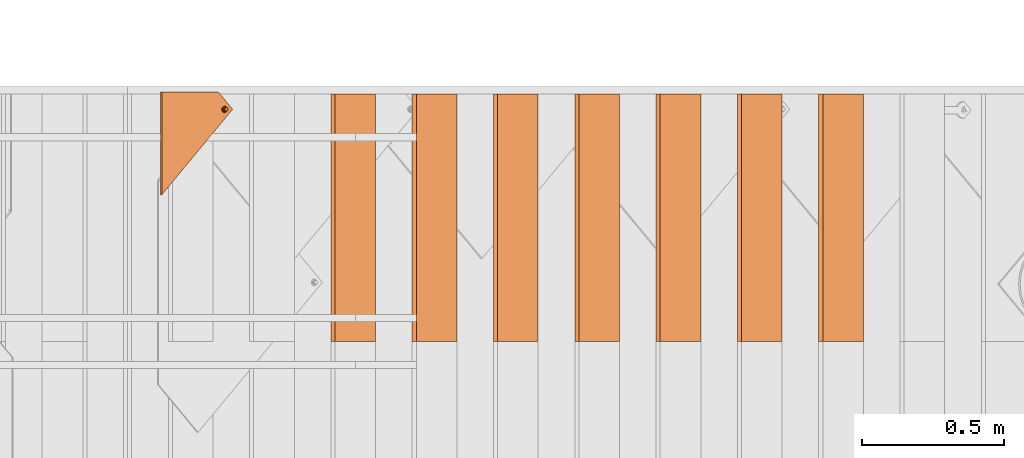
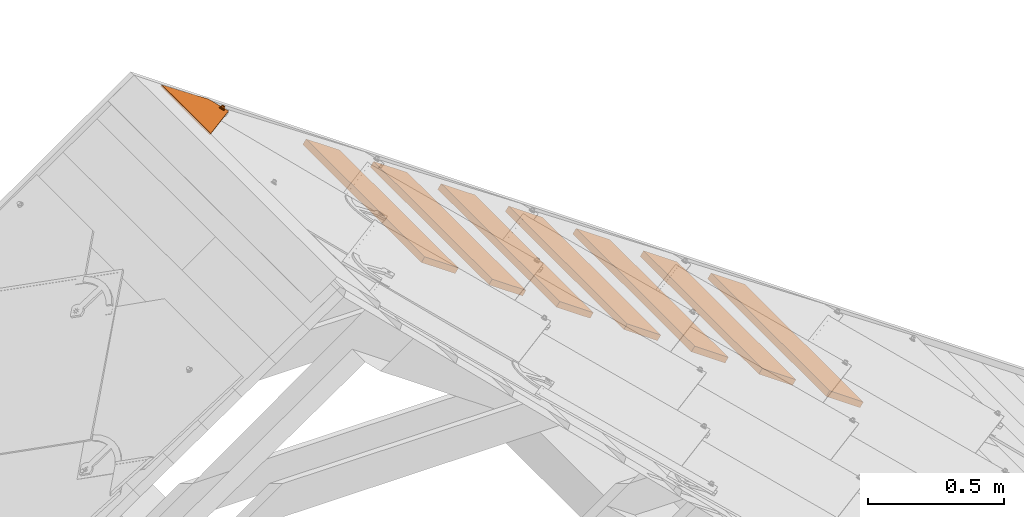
# One storey, part 123 of 151: 8 proxies, 1 element without a shape of its own.
"""IFC2X3 building model written with IfcOpenShell, lengths in millimetres."""

import ifcopenshell
import ifcopenshell.guid

model = None  # the IFC model being written
_history = None  # IfcOwnerHistory: only IFC2X3 demands one
_inside = {}  # id of a spatial element -> (the spatial element, [elements in it])
_under = {}  # id of a project, library or spatial element -> (it, [spatial elements below it])
_declared = {}  # id of a project -> (the project, [libraries it declares])
_typed = {}  # id of a type object -> (the type object, [elements of that type])
_made_of = {}  # id of a material, layer set ... -> (it, [elements and type objects made of it])


def new_model(schema):
    """Start an empty IFC model of exactly this schema.

    Asked for "IFC4X3", IfcOpenShell would pick the latest addendum, in which some entities
    have other attributes; the version numbers below select the first issue.
    IFC2X3 requires an IfcOwnerHistory on every rooted entity: one is made here for all.
    """
    global model, _history
    if schema == "IFC4X3":
        model = ifcopenshell.file(schema_version=(4, 3, 0, 0))
    else:
        model = ifcopenshell.file(schema=schema)
    _inside.clear()
    _under.clear()
    _declared.clear()
    _typed.clear()
    _made_of.clear()
    _history = None
    if model.schema == "IFC2X3":
        org = make("IfcOrganization", Name="unknown")
        user = make(
            "IfcPersonAndOrganization",
            ThePerson=make("IfcPerson", FamilyName="unknown"),
            TheOrganization=org,
        )
        app = make(
            "IfcApplication",
            ApplicationDeveloper=org,
            Version="unknown",
            ApplicationFullName="unknown",
            ApplicationIdentifier="unknown",
        )
        _history = make(
            "IfcOwnerHistory",
            OwningUser=user,
            OwningApplication=app,
            ChangeAction="ADDED",
            CreationDate=0,
        )
    return model


def make(cls, **values):
    """One entity of the class cls with the attributes given. An attribute that is None is left unset."""
    return model.create_entity(
        cls, **{name: value for name, value in values.items() if value is not None}
    )


def entity(cls, *values):
    """Any entity or typed value of the class cls, its attributes in the order of the schema. None: left unset."""
    e = model.create_entity(cls)
    for i, value in enumerate(values):
        if value is not None:
            e[i] = value
    return e


def rooted(cls, **values):
    """An entity with a GlobalId (a new one), such as an element, a storey or a relation."""
    return make(cls, GlobalId=ifcopenshell.guid.new(), OwnerHistory=_history, **values)


def si_unit(unit_type, name, prefix=None):
    """IfcSIUnit, for example si_unit("LENGTHUNIT", "METRE", prefix="MILLI")."""
    return make("IfcSIUnit", UnitType=unit_type, Prefix=prefix, Name=name)


def converted_unit(unit_type, name, factor, base, dimensions=None, offset=None):
    """IfcConversionBasedUnit, such as the inch: factor (a typed value) times the base unit."""
    return make(
        "IfcConversionBasedUnit"
        if offset is None
        else "IfcConversionBasedUnitWithOffset",
        ConversionOffset=offset,
        Dimensions=None
        if dimensions is None
        else entity("IfcDimensionalExponents", *dimensions),
        UnitType=unit_type,
        Name=name,
        ConversionFactor=make(
            "IfcMeasureWithUnit", ValueComponent=factor, UnitComponent=base
        ),
    )


def derived_unit(unit_type, elements):
    """IfcDerivedUnit: a product of units, each with its exponent."""
    return make(
        "IfcDerivedUnit",
        Elements=[
            make("IfcDerivedUnitElement", Unit=unit, Exponent=power)
            for unit, power in elements
        ],
        UnitType=unit_type,
    )


def assignment(units):
    """IfcUnitAssignment: the units of a project."""
    return None if units is None else make("IfcUnitAssignment", Units=units)


def point(xyz):
    """IfcCartesianPoint."""
    return None if xyz is None else make("IfcCartesianPoint", Coordinates=xyz)


def direction(xyz):
    """IfcDirection."""
    return None if xyz is None else make("IfcDirection", DirectionRatios=xyz)


def frame(location, z_axis=None, x_axis=None):
    """IfcAxis2Placement3D, a coordinate frame: its origin and axes. An axis left out is left unset."""
    return make(
        "IfcAxis2Placement3D",
        Location=point(location),
        Axis=direction(z_axis),
        RefDirection=direction(x_axis),
    )


def frame_2d(location, x_axis=None):
    """IfcAxis2Placement2D, a coordinate frame in the plane: its origin and x axis."""
    return make(
        "IfcAxis2Placement2D", Location=point(location), RefDirection=direction(x_axis)
    )


def origin():
    """The frame at (0, 0, 0) with its axes left unset."""
    return frame((0.0, 0.0, 0.0))


def place(relative_to, where):
    """IfcLocalPlacement: puts the frame where relative to a parent placement (None: the world)."""
    return make(
        "IfcLocalPlacement", PlacementRelTo=relative_to, RelativePlacement=where
    )


def context(
    kind, dimensions, precision=None, world=None, true_north=None, identifier=None
):
    """IfcGeometricRepresentationContext, for example the 3D "Model" context."""
    return make(
        "IfcGeometricRepresentationContext",
        ContextIdentifier=identifier,
        ContextType=kind,
        CoordinateSpaceDimension=dimensions,
        Precision=precision,
        WorldCoordinateSystem=world,
        TrueNorth=true_north,
    )


def subcontext(parent, identifier, kind, view, scale=None):
    """IfcGeometricRepresentationSubContext, for example "Body" below "Model"."""
    return make(
        "IfcGeometricRepresentationSubContext",
        ContextIdentifier=identifier,
        ContextType=kind,
        ParentContext=parent,
        TargetScale=scale,
        TargetView=view,
    )


def project(units=None, contexts=None):
    """IfcProject with its units and contexts."""
    return rooted(
        "IfcProject",
        Name="project",
        RepresentationContexts=contexts,
        UnitsInContext=assignment(units),
    )


def spatial(cls, under=None, at=None, **own):
    """A site, building, storey or space (cls), placed at a placement, below another one or the project."""
    s = rooted(cls, ObjectPlacement=at, **own)
    if under is not None:
        _under.setdefault(under.id(), (under, []))[1].append(s)
    return s


def profile(cls, at=None, kind="AREA", **sizes):
    """A parametric profile (cls). Its sizes go by their IFC names, for example OverallWidth=200.0."""
    return make(cls, ProfileType=kind, Position=at, **sizes)


def rectangle(**sizes):
    """IfcRectangleProfileDef."""
    return profile("IfcRectangleProfileDef", **sizes)


def extrude(swept, where, along, depth):
    """IfcExtrudedAreaSolid: the profile swept, set in the frame where, extruded along a direction by depth."""
    return make(
        "IfcExtrudedAreaSolid",
        SweptArea=swept,
        Position=where,
        ExtrudedDirection=direction(along),
        Depth=depth,
    )


def faces_of(points, faces, orient=None, outer=None):
    """IfcFace entities. A face is a list of loops; a loop is a list of indices into points, from 0.

    orient and outer hold one flag for each loop. By default every Orientation is true, the
    first loop of a face is its IfcFaceOuterBound and the others are IfcFaceBound.
    """
    made = []
    for i, loops in enumerate(faces):
        bounds = []
        for j, loop in enumerate(loops):
            is_outer = j == 0 if outer is None else outer[i][j]
            bounds.append(
                make(
                    "IfcFaceOuterBound" if is_outer else "IfcFaceBound",
                    Bound=make("IfcPolyLoop", Polygon=[points[k] for k in loop]),
                    Orientation=True if orient is None else orient[i][j],
                )
            )
        made.append(make("IfcFace", Bounds=bounds))
    return made


def faceted_brep(points, faces, orient=None, outer=None, voids=None):
    """IfcFacetedBrep: a solid bounded by flat faces; with voids (closed shells), ...WithVoids."""
    shared = [point(p) for p in points]
    hull = make("IfcClosedShell", CfsFaces=faces_of(shared, faces, orient, outer))
    if voids is None:
        return make("IfcFacetedBrep", Outer=hull)
    return make(
        "IfcFacetedBrepWithVoids",
        Outer=hull,
        Voids=[
            make(cls, CfsFaces=faces_of(shared, fs, o, b)) for cls, fs, o, b in voids
        ],
    )


def shape(context_of_items, identifier, shape_type, items):
    """IfcShapeRepresentation: the items that make up one representation, for example the "Body"."""
    return make(
        "IfcShapeRepresentation",
        ContextOfItems=context_of_items,
        RepresentationIdentifier=identifier,
        RepresentationType=shape_type,
        Items=items,
    )


def source(mapping_origin, context_of_items, identifier, shape_type, items):
    """IfcRepresentationMap: a shape defined once, which mapped items show again and again."""
    return make(
        "IfcRepresentationMap",
        MappingOrigin=mapping_origin,
        MappedRepresentation=shape(context_of_items, identifier, shape_type, items),
    )


def transform(
    local_origin,
    x_axis=None,
    y_axis=None,
    z_axis=None,
    scale=None,
    scale2=None,
    scale3=None,
    uniform=True,
):
    """IfcCartesianTransformationOperator3D, or its non-uniform kind. x_axis, y_axis, z_axis: its Axis1, 2, 3."""
    if uniform:
        return make(
            "IfcCartesianTransformationOperator3D",
            Axis1=direction(x_axis),
            Axis2=direction(y_axis),
            LocalOrigin=point(local_origin),
            Scale=scale,
            Axis3=direction(z_axis),
        )
    return make(
        "IfcCartesianTransformationOperator3DnonUniform",
        Axis1=direction(x_axis),
        Axis2=direction(y_axis),
        LocalOrigin=point(local_origin),
        Scale=scale,
        Axis3=direction(z_axis),
        Scale2=scale2,
        Scale3=scale3,
    )


def mapped(mapping_source, mapping_target):
    """IfcMappedItem: shows the shape of a source again, moved by a transform."""
    return make(
        "IfcMappedItem", MappingSource=mapping_source, MappingTarget=mapping_target
    )


def material(Name=None, Category=None):
    """IfcMaterial."""
    return make("IfcMaterial", Name=Name, Category=Category)


def material_list(materials):
    """IfcMaterialList."""
    return make("IfcMaterialList", Materials=materials)


def made_of(thing, what):
    """Note that an element or type object is made of a material, layer set ...; save() writes the relation."""
    if what is not None:
        _made_of.setdefault(what.id(), (what, []))[1].append(thing)
    return thing


def type_object(cls, material=None, **own):
    """A type object (cls), such as IfcWallType, which elements share."""
    return made_of(rooted(cls, **own), material)


def type_shapes(of_type, sources):
    """Give a type object the sources (RepresentationMaps) that its elements show as mapped items."""
    of_type.RepresentationMaps = sources


def element(
    cls,
    number,
    at=None,
    inside=None,
    cuts=None,
    type_object=None,
    material=None,
    context=None,
    identifier="Body",
    shape_type=None,
    held_by="IfcProductDefinitionShape",
    body=None,
    shapes=None,
    **own,
):
    """One element of the class cls, such as IfcWall. Its Tag is "e" and its number.

    at: its placement. inside: the storey or other place that contains it. cuts: it is an
    opening in that element (IfcRelVoidsElement). A single representation is given by context,
    identifier, shape_type and body (its items); several are given by shapes. held_by: the class
    of the entity that holds the representations. save() writes the other relations.
    """
    e = rooted(cls, Tag="e%d" % number, ObjectPlacement=at, **own)
    if body is not None:
        shapes = [shape(context, identifier, shape_type, body)]
    if shapes is not None:
        e.Representation = make(held_by, Representations=shapes)
    if inside is not None:
        _inside.setdefault(inside.id(), (inside, []))[1].append(e)
    if cuts is not None:
        rooted(
            "IfcRelVoidsElement", RelatingBuildingElement=cuts, RelatedOpeningElement=e
        )
    if type_object is not None:
        _typed.setdefault(type_object.id(), (type_object, []))[1].append(e)
    return made_of(e, material)


def aggregate(whole, parts):
    """IfcRelAggregates: a whole, such as a stair, and the parts it consists of."""
    return rooted("IfcRelAggregates", RelatingObject=whole, RelatedObjects=parts)


def save(model, path):
    """Write the relations noted so far, then the file.

    IfcRelAggregates (storeys below a building ...), IfcRelContainedInSpatialStructure (elements
    in a storey), IfcRelDefinesByType, IfcRelAssociatesMaterial and IfcRelDeclares: one each for
    every whole, place, type object, material and project.
    """
    for whole, parts in _under.values():
        aggregate(whole, parts)
    for where, things in _inside.values():
        rooted(
            "IfcRelContainedInSpatialStructure",
            RelatedElements=things,
            RelatingStructure=where,
        )
    for kind, things in _typed.values():
        rooted("IfcRelDefinesByType", RelatedObjects=things, RelatingType=kind)
    for what, things in _made_of.values():
        rooted("IfcRelAssociatesMaterial", RelatedObjects=things, RelatingMaterial=what)
    for by, libraries in _declared.values():
        rooted("IfcRelDeclares", RelatingContext=by, RelatedDefinitions=libraries)
    model.write(path)


model = new_model("IFC2X3")

# Units and contexts
model_context = context("Model", 3, precision=0.01, world=origin(), true_north=direction((6.12303176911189e-17, 1.0)))
body_context = subcontext(model_context, "Body", "Model", "MODEL_VIEW")
ifc_project = project(units=[si_unit("LENGTHUNIT", "METRE", prefix="MILLI"), si_unit("AREAUNIT", "SQUARE_METRE"), si_unit("VOLUMEUNIT", "CUBIC_METRE"), converted_unit("PLANEANGLEUNIT", "DEGREE", entity("IfcRatioMeasure", 0.0174532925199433), si_unit("PLANEANGLEUNIT", "RADIAN"), dimensions=[0, 0, 0, 0, 0, 0, 0]), si_unit("MASSUNIT", "GRAM", prefix="KILO"), derived_unit("MASSDENSITYUNIT", [(si_unit("MASSUNIT", "GRAM", prefix="KILO"), 1), (si_unit("LENGTHUNIT", "METRE"), -3)]), si_unit("TIMEUNIT", "SECOND"), si_unit("FREQUENCYUNIT", "HERTZ"), si_unit("THERMODYNAMICTEMPERATUREUNIT", "DEGREE_CELSIUS"), derived_unit("THERMALTRANSMITTANCEUNIT", [(si_unit("MASSUNIT", "GRAM", prefix="KILO"), 1), (si_unit("THERMODYNAMICTEMPERATUREUNIT", "KELVIN"), -1), (si_unit("TIMEUNIT", "SECOND"), -3)]), derived_unit("VOLUMETRICFLOWRATEUNIT", [(si_unit("LENGTHUNIT", "METRE"), 3), (si_unit("TIMEUNIT", "SECOND"), -1)]), si_unit("ELECTRICCURRENTUNIT", "AMPERE"), si_unit("ELECTRICVOLTAGEUNIT", "VOLT"), si_unit("POWERUNIT", "WATT"), si_unit("FORCEUNIT", "NEWTON", prefix="KILO"), si_unit("ILLUMINANCEUNIT", "LUX"), si_unit("LUMINOUSFLUXUNIT", "LUMEN"), si_unit("LUMINOUSINTENSITYUNIT", "CANDELA"), derived_unit("USERDEFINED", [(si_unit("MASSUNIT", "GRAM", prefix="KILO"), -1), (si_unit("LENGTHUNIT", "METRE"), -2), (si_unit("TIMEUNIT", "SECOND"), 3), (si_unit("LUMINOUSFLUXUNIT", "LUMEN"), 1)]), derived_unit("LINEARVELOCITYUNIT", [(si_unit("LENGTHUNIT", "METRE"), 1), (si_unit("TIMEUNIT", "SECOND"), -1)]), si_unit("PRESSUREUNIT", "PASCAL"), derived_unit("USERDEFINED", [(si_unit("LENGTHUNIT", "METRE"), -2), (si_unit("MASSUNIT", "GRAM", prefix="KILO"), 1), (si_unit("TIMEUNIT", "SECOND"), -2)])], contexts=[model_context])

# Site, building, storey
site_placement = place(None, origin())
site = spatial("IfcSite", under=ifc_project, at=site_placement, Name="Default", CompositionType="ELEMENT")
building_placement = place(site_placement, origin())
building = spatial("IfcBuilding", under=site, at=building_placement, CompositionType="ELEMENT")
storey_placement = place(building_placement, origin())
storey = spatial("IfcBuildingStorey", under=building, at=storey_placement, Name="Level 1", CompositionType="ELEMENT", Elevation=0.0)

# Assembly, proxies
assembly_placement = place(storey_placement, origin())
assembly = element("IfcElementAssembly", 1, at=assembly_placement, inside=storey, Name="Structural Framing Assembly:Roof Construction Assembly", ObjectType="Structural Framing Assembly:Roof Construction Assembly", AssemblyPlace="NOTDEFINED", PredefinedType="USERDEFINED")
ifc_material_1 = material(Name="Wood - Generic - Wood For Showcase")
building_element_proxy_type_1 = type_object("IfcBuildingElementProxyType", Name="Structural Framing 15", PredefinedType="NOTDEFINED", material=ifc_material_1)
shared_shape_1 = source(origin(), body_context, "Body", "SweptSolid", [
    extrude(rectangle(XDim=24.9999999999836, YDim=174.344679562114, at=frame_2d((2.98427949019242e-13, -4.2632564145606e-14), x_axis=(1.0, 0.0))), frame((1285.3560130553, 3055.55080214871, 2760.23940055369), z_axis=(0.0, 1.0, 0.0), x_axis=(0.573576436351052, 0.0, 0.819152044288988)), (0.0, 0.0, 1.0), 870.000000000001),
])
type_shapes(building_element_proxy_type_1, [shared_shape_1])
proxy_1_placement = place(assembly_placement, frame((771.561874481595, 0.0, -500.0)))
proxy_1 = element("IfcBuildingElementProxy", 2, at=proxy_1_placement, type_object=building_element_proxy_type_1, material=ifc_material_1, Name="Structural Framing 184:Structural Framing 15", ObjectType="Structural Framing 184:Structural Framing 15", context=body_context, shape_type="MappedRepresentation", body=[
    mapped(shared_shape_1, transform((0.0, 0.0, 0.0), scale=1.0)),
])
building_element_proxy_type_2 = type_object("IfcBuildingElementProxyType", Name="Structural Framing 15", PredefinedType="NOTDEFINED", material=ifc_material_1)
shared_shape_2 = source(origin(), body_context, "Body", "SweptSolid", [
    extrude(rectangle(XDim=24.9999999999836, YDim=174.344679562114, at=frame_2d((2.98427949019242e-13, -4.2632564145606e-14), x_axis=(1.0, 0.0))), frame((1285.3560130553, 3055.55080214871, 2760.23940055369), z_axis=(0.0, 1.0, 0.0), x_axis=(0.573576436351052, 0.0, 0.819152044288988)), (0.0, 0.0, 1.0), 870.000000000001),
])
type_shapes(building_element_proxy_type_2, [shared_shape_2])
proxy_2_placement = place(assembly_placement, frame((1057.19147583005, 0.0, -700.0)))
proxy_2 = element("IfcBuildingElementProxy", 3, at=proxy_2_placement, type_object=building_element_proxy_type_2, material=ifc_material_1, Name="Structural Framing 194:Structural Framing 15", ObjectType="Structural Framing 194:Structural Framing 15", context=body_context, shape_type="MappedRepresentation", body=[
    mapped(shared_shape_2, transform((0.0, 0.0, 0.0), scale=1.0)),
])
building_element_proxy_type_3 = type_object("IfcBuildingElementProxyType", Name="Structural Framing 15", PredefinedType="NOTDEFINED", material=ifc_material_1)
shared_shape_3 = source(origin(), body_context, "Body", "SweptSolid", [
    extrude(rectangle(XDim=24.9999999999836, YDim=174.344679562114, at=frame_2d((2.98427949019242e-13, -4.2632564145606e-14), x_axis=(1.0, 0.0))), frame((1285.3560130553, 3055.55080214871, 2760.23940055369), z_axis=(0.0, 1.0, 0.0), x_axis=(0.573576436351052, 0.0, 0.819152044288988)), (0.0, 0.0, 1.0), 870.000000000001),
])
type_shapes(building_element_proxy_type_3, [shared_shape_3])
proxy_3_placement = place(assembly_placement, frame((1342.8210771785, 0.0, -900.0)))
proxy_3 = element("IfcBuildingElementProxy", 4, at=proxy_3_placement, type_object=building_element_proxy_type_3, material=ifc_material_1, Name="Structural Framing 204:Structural Framing 15", ObjectType="Structural Framing 204:Structural Framing 15", context=body_context, shape_type="MappedRepresentation", body=[
    mapped(shared_shape_3, transform((0.0, 0.0, 0.0), scale=1.0)),
])
building_element_proxy_type_4 = type_object("IfcBuildingElementProxyType", Name="Structural Framing 15", PredefinedType="NOTDEFINED", material=ifc_material_1)
shared_shape_4 = source(origin(), body_context, "Body", "SweptSolid", [
    extrude(rectangle(XDim=24.9999999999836, YDim=174.344679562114, at=frame_2d((2.98427949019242e-13, -4.2632564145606e-14), x_axis=(1.0, 0.0))), frame((1285.3560130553, 3055.55080214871, 2760.23940055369), z_axis=(0.0, 1.0, 0.0), x_axis=(0.573576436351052, 0.0, 0.819152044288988)), (0.0, 0.0, 1.0), 870.000000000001),
])
type_shapes(building_element_proxy_type_4, [shared_shape_4])
proxy_4_placement = place(assembly_placement, frame((1628.45067852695, 0.0, -1100.0)))
proxy_4 = element("IfcBuildingElementProxy", 5, at=proxy_4_placement, type_object=building_element_proxy_type_4, material=ifc_material_1, Name="Structural Framing 214:Structural Framing 15", ObjectType="Structural Framing 214:Structural Framing 15", context=body_context, shape_type="MappedRepresentation", body=[
    mapped(shared_shape_4, transform((0.0, 0.0, 0.0), scale=1.0)),
])
building_element_proxy_type_5 = type_object("IfcBuildingElementProxyType", Name="Structural Framing 15", PredefinedType="NOTDEFINED", material=ifc_material_1)
shared_shape_5 = source(origin(), body_context, "Body", "SweptSolid", [
    extrude(rectangle(XDim=24.9999999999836, YDim=174.344679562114, at=frame_2d((2.98427949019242e-13, -4.2632564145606e-14), x_axis=(1.0, 0.0))), frame((1285.3560130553, 3055.55080214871, 2760.23940055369), z_axis=(0.0, 1.0, 0.0), x_axis=(0.573576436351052, 0.0, 0.819152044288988)), (0.0, 0.0, 1.0), 870.000000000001),
])
type_shapes(building_element_proxy_type_5, [shared_shape_5])
proxy_5_placement = place(assembly_placement, frame((1914.0802798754, 0.0, -1300.0)))
proxy_5 = element("IfcBuildingElementProxy", 6, at=proxy_5_placement, type_object=building_element_proxy_type_5, material=ifc_material_1, Name="Structural Framing 224:Structural Framing 15", ObjectType="Structural Framing 224:Structural Framing 15", context=body_context, shape_type="MappedRepresentation", body=[
    mapped(shared_shape_5, transform((0.0, 0.0, 0.0), scale=1.0)),
])
building_element_proxy_type_6 = type_object("IfcBuildingElementProxyType", Name="Structural Framing 15", PredefinedType="NOTDEFINED", material=ifc_material_1)
shared_shape_6 = source(origin(), body_context, "Body", "SweptSolid", [
    extrude(rectangle(XDim=24.9999999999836, YDim=174.344679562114, at=frame_2d((2.98427949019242e-13, -4.2632564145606e-14), x_axis=(1.0, 0.0))), frame((1285.3560130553, 3055.55080214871, 2760.23940055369), z_axis=(0.0, 1.0, 0.0), x_axis=(0.573576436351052, 0.0, 0.819152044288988)), (0.0, 0.0, 1.0), 870.000000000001),
])
type_shapes(building_element_proxy_type_6, [shared_shape_6])
proxy_6_placement = place(assembly_placement, frame((2199.70988122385, 0.0, -1500.0)))
proxy_6 = element("IfcBuildingElementProxy", 7, at=proxy_6_placement, type_object=building_element_proxy_type_6, material=ifc_material_1, Name="Structural Framing 234:Structural Framing 15", ObjectType="Structural Framing 234:Structural Framing 15", context=body_context, shape_type="MappedRepresentation", body=[
    mapped(shared_shape_6, transform((0.0, 0.0, 0.0), scale=1.0)),
])
building_element_proxy_type_7 = type_object("IfcBuildingElementProxyType", Name="Structural Framing 15", PredefinedType="NOTDEFINED", material=ifc_material_1)
shared_shape_7 = source(origin(), body_context, "Body", "SweptSolid", [
    extrude(rectangle(XDim=24.9999999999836, YDim=174.344679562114, at=frame_2d((2.98427949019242e-13, -4.2632564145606e-14), x_axis=(1.0, 0.0))), frame((1285.3560130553, 3055.55080214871, 2760.23940055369), z_axis=(0.0, 1.0, 0.0), x_axis=(0.573576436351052, 0.0, 0.819152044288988)), (0.0, 0.0, 1.0), 870.000000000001),
])
type_shapes(building_element_proxy_type_7, [shared_shape_7])
proxy_7_placement = place(assembly_placement, frame((2485.3394825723, 0.0, -1700.0)))
proxy_7 = element("IfcBuildingElementProxy", 8, at=proxy_7_placement, type_object=building_element_proxy_type_7, material=ifc_material_1, Name="Structural Framing 244:Structural Framing 15", ObjectType="Structural Framing 244:Structural Framing 15", context=body_context, shape_type="MappedRepresentation", body=[
    mapped(shared_shape_7, transform((0.0, 0.0, 0.0), scale=1.0)),
])
aggregate(assembly, [proxy_1, proxy_2, proxy_3, proxy_4, proxy_5, proxy_6, proxy_7])

# Proxy
ifc_material_2 = material(Name="Rubber - Sunstyle - Black")
ifc_material_3 = material(Name="Glass - Sunstyle - Tainted Black")
ifc_material_list_1 = material_list([ifc_material_2, ifc_material_3])
ifc_material_list_2 = material_list([ifc_material_2, ifc_material_3])
building_element_proxy_type_8 = type_object("IfcBuildingElementProxyType", Name="Corner Top Small Right - Black", PredefinedType="NOTDEFINED", material=ifc_material_list_2)
shared_shape_8 = source(origin(), body_context, "Body", "Brep", [
    faceted_brep([(300.309183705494, 41.6050579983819, 1.59527223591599), (294.534980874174, 38.2717878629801, 1.65109621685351), (294.534980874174, 38.6400969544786, 23.6429655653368), (300.309183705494, 41.9733670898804, 23.5871415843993), (294.534980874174, 31.6052475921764, 1.76274417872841), (294.534980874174, 31.9735566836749, 23.7546135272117), (300.309183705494, 28.2719774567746, 1.81856815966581), (300.309183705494, 28.640286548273, 23.8104375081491), (306.083386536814, 31.6052475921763, 1.7627441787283), (306.083386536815, 31.9735566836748, 23.7546135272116), (306.083386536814, 38.2717878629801, 1.65109621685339), (306.083386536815, 38.6400969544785, 23.6429655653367), (291.705479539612, 26.704328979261, 23.8428599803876), (300.309183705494, 23.1410577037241, 23.9025359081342), (288.141708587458, 35.3068268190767, 23.6987895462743), (291.705479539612, 43.9093246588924, 23.5547191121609), (300.309183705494, 47.4725959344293, 23.4950431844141), (308.912887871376, 43.9093246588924, 23.5547191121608), (312.476658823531, 35.3068268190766, 23.6987895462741), (308.912887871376, 26.704328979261, 23.8428599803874), (288.984939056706, 37.6019039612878, 26.0116314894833), (290.552709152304, 35.3778417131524, 27.9391141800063), (300.309183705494, 42.6909169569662, 28.5718145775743), (300.309183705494, 43.9314145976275, 27.9914679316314), (300.309183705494, 46.0889654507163, 26.98209285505), (300.309183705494, 23.6971017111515, 25.1775938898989), (300.309183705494, 24.6406783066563, 27.3412982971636), (300.309183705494, 28.0900540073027, 28.8163427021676), (300.309183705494, 46.9595598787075, 24.7880055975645), (293.985938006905, 31.7402697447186, 28.7552106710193), (293.985938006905, 39.0407012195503, 28.6329466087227), (311.633428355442, 33.0904837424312, 26.0871865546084), (310.15806385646, 34.3034352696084, 27.8602460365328), (306.632429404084, 39.0407012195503, 28.6329466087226), (306.632429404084, 31.7402697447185, 28.7552106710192), (293.985938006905, 31.8742982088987, 36.7580988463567), (300.309183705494, 28.224082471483, 36.8192308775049), (300.309183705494, 35.5245139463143, 36.6969668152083), (293.985938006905, 39.17472968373, 36.6358347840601), (306.632429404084, 31.8742982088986, 36.7580988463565), (306.632429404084, 39.1747296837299, 36.6358347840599), (300.309183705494, 42.8249454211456, 36.5747027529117), (300.309183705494, 34.9385177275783, 1.7069201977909)], [[[0, 1, 2, 3]], [[1, 4, 5, 2]], [[4, 6, 7, 5]], [[6, 8, 9, 7]], [[8, 10, 11, 9]], [[10, 0, 3, 11]], [[12, 7, 13]], [[7, 12, 5]], [[14, 5, 12]], [[5, 14, 2]], [[15, 2, 14]], [[3, 2, 15]], [[15, 16, 3]], [[16, 17, 3]], [[11, 3, 17]], [[11, 17, 18]], [[9, 11, 18]], [[18, 19, 9]], [[7, 9, 19]], [[19, 13, 7]], [[20, 14, 12]], [[21, 22, 23, 24]], [[24, 20, 21]], [[25, 20, 12]], [[26, 27, 21]], [[15, 14, 20]], [[12, 13, 25]], [[20, 28, 15]], [[28, 20, 24]], [[21, 27, 29]], [[21, 29, 30]], [[26, 21, 20]], [[20, 25, 26]], [[15, 28, 16]], [[21, 30, 22]], [[31, 18, 17]], [[28, 31, 17]], [[32, 27, 26]], [[26, 31, 32]], [[26, 25, 31]], [[25, 19, 31]], [[17, 16, 28]], [[31, 19, 18]], [[24, 31, 28]], [[33, 34, 32]], [[23, 22, 33]], [[24, 32, 31]], [[27, 32, 34]], [[32, 23, 33]], [[19, 25, 13]], [[32, 24, 23]], [[35, 36, 37]], [[37, 38, 35]], [[36, 39, 37]], [[40, 37, 39]], [[37, 40, 41]], [[37, 41, 38]], [[42, 6, 4]], [[4, 1, 42]], [[1, 0, 42]], [[42, 8, 6]], [[0, 10, 42]], [[8, 42, 10]], [[22, 30, 38, 41]], [[30, 29, 35, 38]], [[29, 27, 36, 35]], [[27, 34, 39, 36]], [[34, 33, 40, 39]], [[33, 22, 41, 40]]]),
    faceted_brep([(300.700466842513, 0.125588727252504, 24.1962208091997), (304.302649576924, 28.4261395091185, 23.7222570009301), (302.373201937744, 27.6270481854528, 23.7356397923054), (305.959503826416, 29.6973102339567, 23.7009680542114), (300.302649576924, 27.3544930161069, 23.7402044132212), (307.230852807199, 31.3539321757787, 23.6732237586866), (360.803898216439, 60.2121670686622, 23.189920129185), (298.232097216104, 27.6270481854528, 23.7356397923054), (296.302649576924, 28.4261395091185, 23.7222570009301), (294.645795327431, 29.6973102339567, 23.7009680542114), (293.374446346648, 31.3539321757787, 23.6732237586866), (292.575242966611, 33.2831092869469, 23.6409148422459), (0.0, 300.741739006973, 19.1616482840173), (308.030056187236, 33.2831092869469, 23.6409148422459), (308.302649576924, 35.3533713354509, 23.6062431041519), (308.030056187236, 37.4236333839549, 23.5715713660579), (307.230852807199, 39.3528104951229, 23.5392624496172), (305.959503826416, 41.0094324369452, 23.5115181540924), (304.302649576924, 42.2806031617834, 23.4902292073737), (302.373201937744, 43.079694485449, 23.4768464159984), (300.302649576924, 43.3522496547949, 23.4722817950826), (360.803898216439, 300.741739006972, 19.1616482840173), (298.232097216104, 43.079694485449, 23.4768464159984), (296.302649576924, 42.2806031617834, 23.4902292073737), (294.645795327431, 41.009432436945, 23.5115181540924), (292.302649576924, 35.3533713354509, 23.6062431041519), (292.575242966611, 37.4236333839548, 23.5715713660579), (293.374446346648, 39.3528104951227, 23.5392624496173), (300.302649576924, 43.2266609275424, 15.9733333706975), (360.803898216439, 300.616150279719, 11.6626998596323), (360.803898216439, 60.0865783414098, 15.6909717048), (302.373201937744, 42.9541057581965, 15.9778979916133), (298.232097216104, 42.9541057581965, 15.9778979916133), (296.302649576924, 42.1550144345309, 15.9912807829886), (0.0, 300.61615027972, 11.6626998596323), (294.645795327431, 40.8838437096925, 16.0125697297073), (293.374446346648, 39.2272217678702, 16.0403140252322), (292.575242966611, 37.2980446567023, 16.0726229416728), (292.302649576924, 35.2277826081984, 16.1072946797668), (292.575242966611, 33.1575205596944, 16.1419664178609), (300.700466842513, 0.0, 16.6972723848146), (293.374446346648, 31.2283434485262, 16.1742753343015), (294.645795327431, 29.5717215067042, 16.2020196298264), (296.302649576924, 28.300550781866, 16.2233085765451), (298.232097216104, 27.5014594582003, 16.2366913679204), (300.302649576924, 27.2289042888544, 16.2412559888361), (302.373201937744, 27.5014594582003, 16.2366913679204), (304.302649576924, 28.300550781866, 16.2233085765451), (305.959503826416, 29.5717215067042, 16.2020196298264), (307.230852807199, 31.2283434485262, 16.1742753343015), (308.030056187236, 33.1575205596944, 16.1419664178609), (308.302649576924, 35.2277826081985, 16.1072946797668), (308.030056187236, 37.2980446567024, 16.0726229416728), (307.230852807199, 39.2272217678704, 16.0403140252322), (305.959503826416, 40.8838437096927, 16.0125697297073), (304.302649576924, 42.1550144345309, 15.9912807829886)], [[[0, 1, 2]], [[1, 0, 3]], [[0, 2, 4]], [[5, 3, 0]], [[5, 0, 6]], [[4, 7, 0]], [[7, 8, 0]], [[8, 9, 0]], [[9, 10, 0]], [[10, 11, 0]], [[0, 11, 12]], [[6, 13, 5]], [[14, 13, 6]], [[15, 14, 6]], [[16, 15, 6]], [[17, 16, 6]], [[6, 18, 17]], [[19, 18, 6]], [[19, 6, 20]], [[6, 21, 20]], [[20, 21, 22]], [[23, 22, 21]], [[12, 23, 21]], [[23, 12, 24]], [[11, 25, 12]], [[26, 12, 25]], [[26, 27, 12]], [[27, 24, 12]], [[28, 29, 30]], [[28, 30, 31]], [[32, 29, 28]], [[32, 33, 29]], [[29, 33, 34]], [[33, 35, 34]], [[35, 36, 34]], [[36, 37, 34]], [[34, 37, 38]], [[38, 39, 34]], [[40, 34, 39]], [[39, 41, 40]], [[41, 42, 40]], [[42, 43, 40]], [[44, 40, 43]], [[44, 45, 40]], [[46, 40, 45]], [[40, 46, 47]], [[47, 48, 40]], [[48, 49, 40]], [[50, 30, 49]], [[30, 40, 49]], [[50, 51, 30]], [[30, 51, 52]], [[52, 53, 30]], [[53, 54, 30]], [[54, 55, 30]], [[31, 30, 55]], [[0, 12, 34, 40]], [[6, 0, 40, 30]], [[25, 38, 37, 26]], [[26, 37, 36, 27]], [[23, 24, 35, 33]], [[35, 24, 27, 36]], [[22, 23, 33, 32]], [[22, 32, 28, 20]], [[20, 28, 31, 19]], [[19, 31, 55, 18]], [[16, 17, 54, 53]], [[54, 17, 18, 55]], [[15, 16, 53, 52]], [[15, 52, 51, 14]], [[14, 51, 50, 13]], [[13, 50, 49, 5]], [[1, 3, 48, 47]], [[48, 3, 5, 49]], [[2, 1, 47, 46]], [[2, 46, 45, 4]], [[4, 45, 44, 7]], [[7, 44, 43, 8]], [[10, 9, 42, 41]], [[42, 9, 8, 43]], [[11, 10, 41, 39]], [[11, 39, 38, 25]], [[12, 21, 29, 34]], [[21, 6, 30, 29]]]),
])
type_shapes(building_element_proxy_type_8, [shared_shape_8])
proxy_8_placement = place(storey_placement, frame((1619.55192523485, 3570.43599367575, 2584.68943241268), z_axis=(0.573576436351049, 0.0, 0.81915204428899), x_axis=(0.0, 1.0, 0.0)))
element("IfcBuildingElementProxy", 9, at=proxy_8_placement, inside=storey, type_object=building_element_proxy_type_8, material=ifc_material_list_1, Name="Roofing_Panels_SunStyle_Tile_Corner-Top-Small-Right:Corner Top Small Right - Black", ObjectType="Roofing_Panels_SunStyle_Tile_Corner-Top-Small-Right:Corner Top Small Right - Black", context=body_context, shape_type="MappedRepresentation", body=[
    mapped(shared_shape_8, transform((0.0, 0.0, 0.0), scale=1.0)),
])

save(model, "model.ifc")
